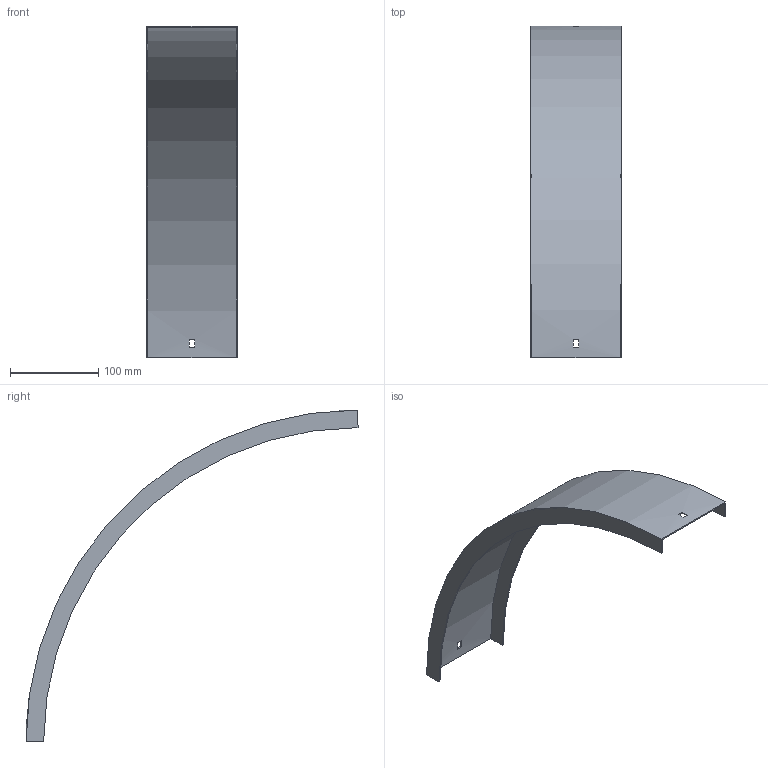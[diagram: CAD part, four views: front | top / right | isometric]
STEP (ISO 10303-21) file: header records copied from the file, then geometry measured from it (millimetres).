
FILE_DESCRIPTION (( 'STEP AP214' ), '1' );
FILE_NAME ('B2_33N3C100.step', '2025-02-21T10:46:21', ( '' ), ( '' ), 'SwSTEP 2.0', 'SolidWorks 2023', '' );
FILE_SCHEMA (( 'AUTOMOTIVE_DESIGN' ));
Length unit declared in the file: millimetre
Products named in the file (1): B2_33N3C100
Bounding box: 103 x 376.5 x 376.5 mm (x, y, z)
Volume: 122900.1 mm3; surface area: 166063.5 mm2
Topology: 1 solids, 1 shells, 18 faces, 48 edges, 32 vertices
Faces by surface type: plane 14, cylinder 4
Entity records: 599 total; most frequent: DIRECTION 102, CARTESIAN_POINT 99, ORIENTED_EDGE 96, EDGE_CURVE 48, AXIS2_PLACEMENT_3D 35, VECTOR 32, LINE 32, VERTEX_POINT 32
